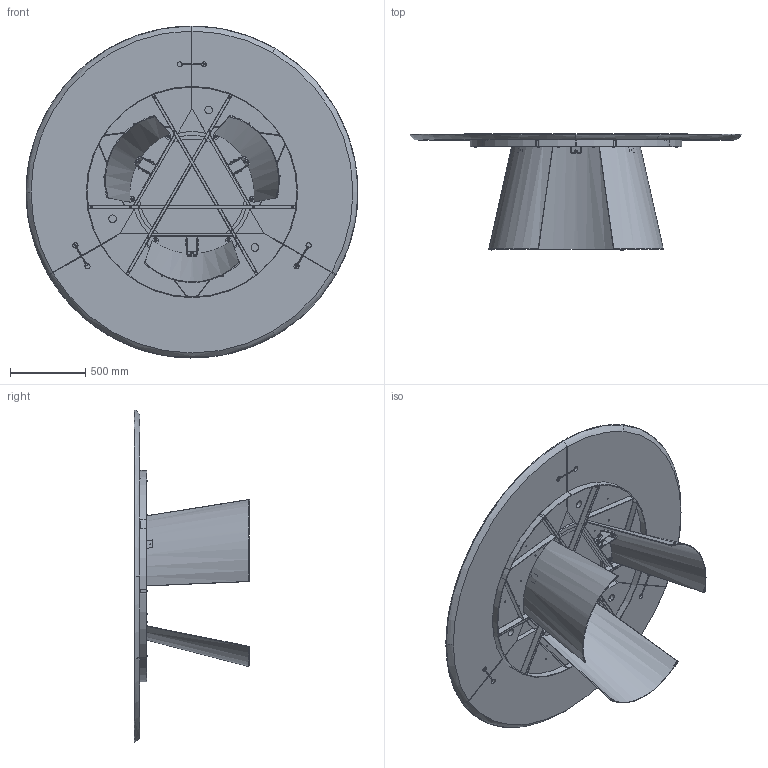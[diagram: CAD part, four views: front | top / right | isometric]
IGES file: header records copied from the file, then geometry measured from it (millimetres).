
Start section: SolidWorks IGES file using analytic representation for surfaces
Global section: file name: Y:\eforma\TECNICO\SOLIDWORKS\E-FORMA\1-TAVOLI\DORIAN\08 modelli 3D web\DN18L_Dorian_d.220_WoodCeramic.IGS; native system: SolidWorks 2022; preprocessor: SolidWorks 2022; author: eforma.tech; date: 240801.150728; units: millimetre
Bounding box: 2199.87 x 767.54 x 2200.18 mm (x, y, z)
Volume: 139578939.8 mm3; surface area: 15832383.4 mm2
Topology: 134 solids, 134 shells, 5096 faces, 14106 edges, 9156 vertices
Faces by surface type: revolution 3329, plane 1500, bspline 267
